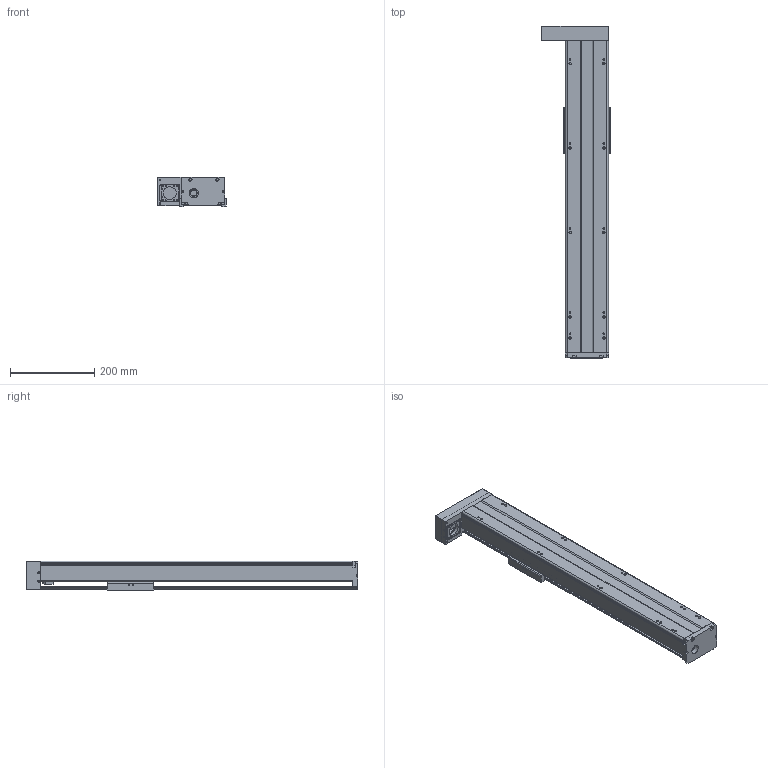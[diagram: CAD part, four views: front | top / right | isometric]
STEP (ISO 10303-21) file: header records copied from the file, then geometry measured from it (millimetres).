
FILE_DESCRIPTION(/* description */ (''),/* implementation_level */ '2;1');
FILE_NAME(/* name */ 'TKA100-FL-550_asm1.stp',/* time_stamp */ '2016-05-17T14:50:53+08:00',/* author */ (''),/* organization */ (''),/* preprocessor_version */ 'ST-DEVELOPER v15',/* originating_system */ 'SIEMENS PLM Software NX 8.5',/* authorisation */ '');
FILE_SCHEMA (('AUTOMOTIVE_DESIGN { 1 0 10303 214 3 1 1 1 }'));
Length unit declared in the file: millimetre
Products named in the file (3): 200-2; 200-1; TKA100-FL-550_asm1
Assembly tree (2 placements, depth 2):
  TKA100-FL-550_asm1
    200-1
    200-2
Bounding box: 162 x 786 x 71 mm (x, y, z)
Volume: 1751368.2 mm3; surface area: 597989.6 mm2
Topology: 2 solids, 16 shells, 792 faces, 2062 edges, 1340 vertices
Faces by surface type: plane 317, cylinder 300, cone 121, torus 28, bspline 26
Full cylindrical faces by diameter (mm): 2.5 x6, 2.6 x8, 3.3 x11, 3.4 x4, 3.8 x8, 4.2 x19, 4.3 x4, 4.5 x10, 5 x2, 5.5 x18, 6.6 x4, 8 x4, 9 x6, 10 x6, 11 x4, 12 x6, 15.3 x1, 16 x1, 22 x1, 24 x1, 28 x2, 30 x1, 33 x1
Entity records: 29172 total; most frequent: CARTESIAN_POINT 10722, DIRECTION 3777, ORIENTED_EDGE 3592, EDGE_CURVE 1796, AXIS2_PLACEMENT_3D 1487, VERTEX_POINT 1272, EDGE_LOOP 1093, LINE 803
